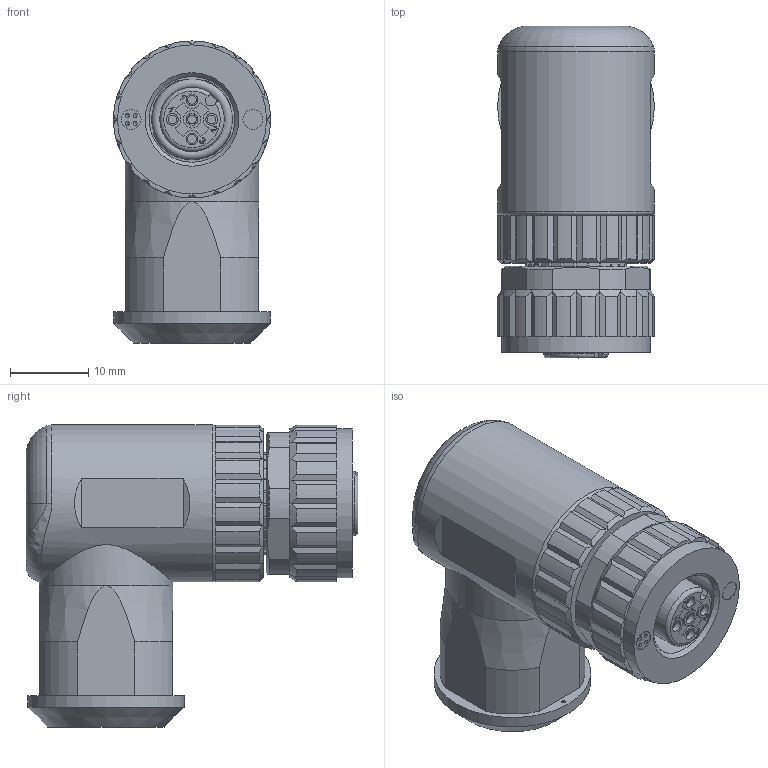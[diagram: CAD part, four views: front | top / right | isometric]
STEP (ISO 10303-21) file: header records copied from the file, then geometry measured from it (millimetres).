
FILE_DESCRIPTION(/* description */ (''),/* implementation_level */ '2;1');
FILE_NAME(/* name */ 'K:\Step\43\43K1A4053.stp',/* time_stamp */ '2018-01-10T14:52:28+01:00',/* author */ ('RuthChristen'),/* organization */ (''),/* preprocessor_version */ 'ST-DEVELOPER v16.13',/* originating_system */ 'Autodesk Inventor 2018',/* authorisation */ '');
FILE_SCHEMA (('AUTOMOTIVE_DESIGN { 1 0 10303 214 3 1 1 }'));
Length unit declared in the file: millimetre
Products named in the file (1): Bauteil7
Bounding box: 20 x 42.3 x 38.5 mm (x, y, z)
Volume: 17027.9 mm3; surface area: 5445.8 mm2
Topology: 1 solids, 1 shells, 430 faces, 1152 edges, 759 vertices
Faces by surface type: plane 255, cylinder 115, bspline 36, cone 17, torus 7
Full cylindrical faces by diameter (mm): 0.5 x1, 1.1 x5, 1.5 x5, 2.2 x1, 2.5 x2, 10.3 x1, 10.92 x1, 17 x1, 19 x1, 20 x2
Entity records: 14176 total; most frequent: CARTESIAN_POINT 3389, ORIENTED_EDGE 2222, DIRECTION 2010, EDGE_CURVE 1111, VERTEX_POINT 750, AXIS2_PLACEMENT_3D 679, LINE 652, VECTOR 652
